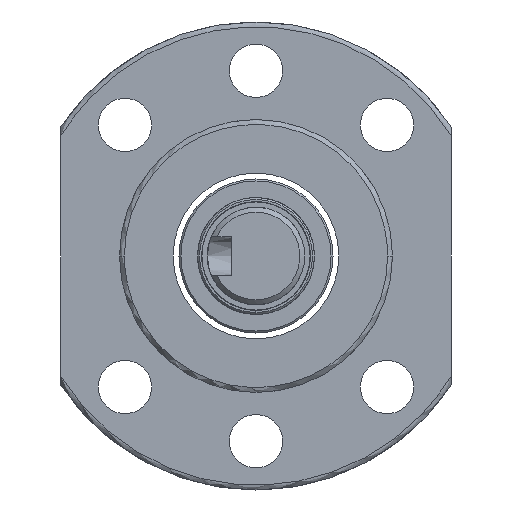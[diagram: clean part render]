
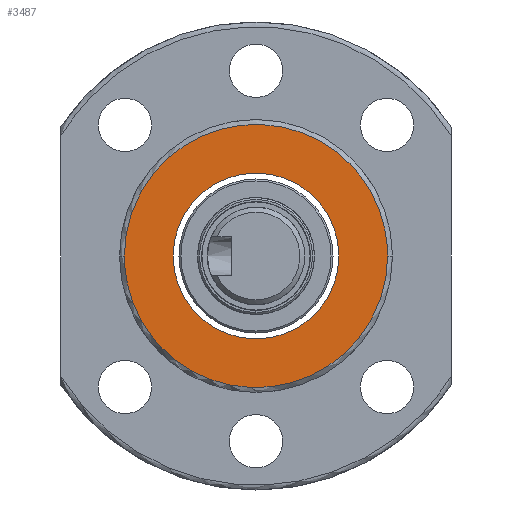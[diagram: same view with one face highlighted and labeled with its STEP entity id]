
A CAD part, left-side view. The second image highlights one B-rep face of the part: STEP entity #3487.
In plain terms, the highlighted planar face has unit normal (-1, 0, 0).
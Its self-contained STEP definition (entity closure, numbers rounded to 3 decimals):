
#41 = DIRECTION ( 'NONE',  ( -1., 0., 0. ) ) ;
#44 = CIRCLE ( 'NONE', #3782, 8.5 ) ;
#264 = EDGE_LOOP ( 'NONE', ( #881, #3005 ) ) ;
#294 = DIRECTION ( 'NONE',  ( 0., 0., 1. ) ) ;
#421 = ORIENTED_EDGE ( 'NONE', *, *, #4553, .F. ) ;
#853 = CARTESIAN_POINT ( 'NONE',  ( -65., 0., 0. ) ) ;
#881 = ORIENTED_EDGE ( 'NONE', *, *, #1204, .T. ) ;
#1062 = CARTESIAN_POINT ( 'NONE',  ( -65., -13.5, 27. ) ) ;
#1204 = EDGE_CURVE ( 'NONE', #2667, #1979, #3271, .T. ) ;
#1552 = CARTESIAN_POINT ( 'NONE',  ( -65., 13.5, 27. ) ) ;
#1666 = EDGE_CURVE ( 'NONE', #5881, #3041, #4090, .T. ) ;
#1979 = VERTEX_POINT ( 'NONE', #2974 ) ;
#2343 = DIRECTION ( 'NONE',  ( 0., 0., 1. ) ) ;
#2437 = PLANE ( 'NONE',  #3295 ) ;
#2480 = CARTESIAN_POINT ( 'NONE',  ( -65., -13.5, 0. ) ) ;
#2563 = DIRECTION ( 'NONE',  ( 1., 0., 0. ) ) ;
#2667 = VERTEX_POINT ( 'NONE', #4586 ) ;
#2681 = DIRECTION ( 'NONE',  ( 0., 0., 1. ) ) ;
#2764 = FACE_BOUND ( 'NONE', #264, .T. ) ;
#2854 = CARTESIAN_POINT ( 'NONE',  ( -65., 9.75, 0. ) ) ;
#2899 = CARTESIAN_POINT ( 'NONE',  ( -65., 13.5, 0. ) ) ;
#2974 = CARTESIAN_POINT ( 'NONE',  ( -65., 0., -8.5 ) ) ;
#3005 = ORIENTED_EDGE ( 'NONE', *, *, #3596, .T. ) ;
#3041 = VERTEX_POINT ( 'NONE', #4407 ) ;
#3271 = CIRCLE ( 'NONE', #4400, 8.5 ) ;
#3277 = FACE_OUTER_BOUND ( 'NONE', #3638, .T. ) ;
#3295 = AXIS2_PLACEMENT_3D ( 'NONE', #2854, #41, #2343 ) ;
#3437 = CARTESIAN_POINT ( 'NONE',  ( -65., -13.5, 0. ) ) ;
#3487 = ADVANCED_FACE ( 'NONE', ( #2764, #3277 ), #2437, .T. ) ;
#3596 = EDGE_CURVE ( 'NONE', #1979, #2667, #44, .T. ) ;
#3617 = CARTESIAN_POINT ( 'NONE',  ( -65., 0., 0. ) ) ;
#3638 = EDGE_LOOP ( 'NONE', ( #421, #4081 ) ) ;
#3782 = AXIS2_PLACEMENT_3D ( 'NONE', #853, #4368, #2681 ) ;
#4042 = CARTESIAN_POINT ( 'NONE',  ( -65., 13.5, 0. ) ) ;
#4081 = ORIENTED_EDGE ( 'NONE', *, *, #1666, .F. ) ;
#4090 =( BOUNDED_CURVE ( )  B_SPLINE_CURVE ( 3, ( #4864, #5411, #5885, #4042 ),
 .UNSPECIFIED., .F., .T. ) 
 B_SPLINE_CURVE_WITH_KNOTS ( ( 4, 4 ),
 ( 0., 1. ),
 .UNSPECIFIED. ) 
 CURVE ( )  GEOMETRIC_REPRESENTATION_ITEM ( )  RATIONAL_B_SPLINE_CURVE ( ( 1., 0.333, 0.333, 1. ) ) 
 REPRESENTATION_ITEM ( '' )  );
#4368 = DIRECTION ( 'NONE',  ( 1., 0., 0. ) ) ;
#4400 = AXIS2_PLACEMENT_3D ( 'NONE', #3617, #2563, #294 ) ;
#4407 = CARTESIAN_POINT ( 'NONE',  ( -65., 13.5, 0. ) ) ;
#4553 = EDGE_CURVE ( 'NONE', #3041, #5881, #4862, .T. ) ;
#4586 = CARTESIAN_POINT ( 'NONE',  ( -65., 0., 8.5 ) ) ;
#4862 =( BOUNDED_CURVE ( )  B_SPLINE_CURVE ( 3, ( #2899, #1552, #1062, #2480 ),
 .UNSPECIFIED., .F., .T. ) 
 B_SPLINE_CURVE_WITH_KNOTS ( ( 4, 4 ),
 ( 0., 1. ),
 .UNSPECIFIED. ) 
 CURVE ( )  GEOMETRIC_REPRESENTATION_ITEM ( )  RATIONAL_B_SPLINE_CURVE ( ( 1., 0.333, 0.333, 1. ) ) 
 REPRESENTATION_ITEM ( '' )  );
#4864 = CARTESIAN_POINT ( 'NONE',  ( -65., -13.5, 0. ) ) ;
#5411 = CARTESIAN_POINT ( 'NONE',  ( -65., -13.5, -27. ) ) ;
#5881 = VERTEX_POINT ( 'NONE', #3437 ) ;
#5885 = CARTESIAN_POINT ( 'NONE',  ( -65., 13.5, -27. ) ) ;
